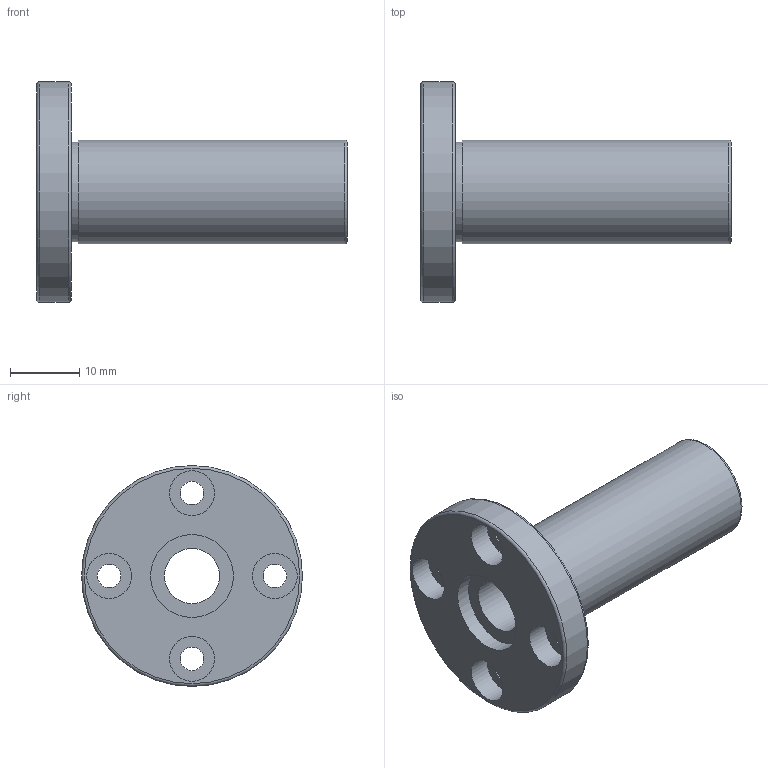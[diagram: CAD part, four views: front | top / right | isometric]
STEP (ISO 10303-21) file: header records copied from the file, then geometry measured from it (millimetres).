
FILE_DESCRIPTION( ( 'Unknown' ), '1' );
FILE_NAME( 'D:/累诀/己绕皋墨飘肺葱胶/11-04-06_档搁累己/01_府聪绢何教/LMF L/LMF 8L.stp', 'Unknown', ( 'Unknown' ), ( 'Unknown' ), 'PSStep 11.0', 'Unknown', ' ' );
FILE_SCHEMA( ( 'AUTOMOTIVE_DESIGN { 1 0 10303 214 1 1 1 1 }' ) );
Length unit declared in the file: millimetre
Products named in the file (1): 1
Bounding box: 45 x 32 x 32 mm (x, y, z)
Volume: 8023.1 mm3; surface area: 5335.6 mm2
Topology: 1 solids, 1 shells, 27 faces, 52 edges, 35 vertices
Faces by surface type: cylinder 14, plane 10, torus 3
Full cylindrical faces by diameter (mm): 3.4 x4, 6.5 x4, 8 x1, 12 x2, 14.4 x1, 15 x1, 32 x1
Entity records: 836 total; most frequent: DIRECTION 118, CARTESIAN_POINT 90, EDGE_LOOP 62, ORIENTED_EDGE 62, AXIS2_PLACEMENT_3D 59, FACE_OUTER_BOUND 44, EDGE_CURVE 31, VERTEX_POINT 31
